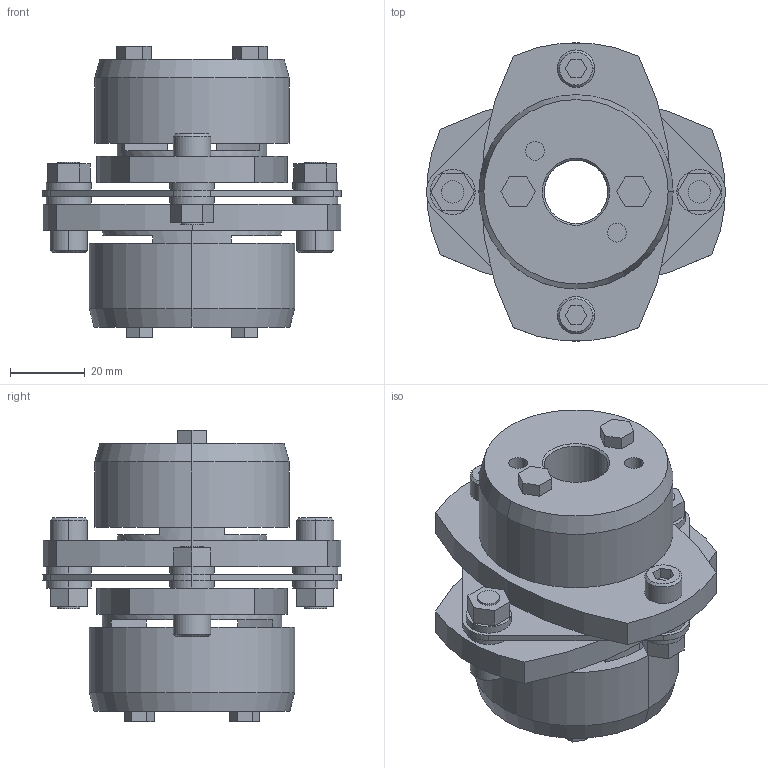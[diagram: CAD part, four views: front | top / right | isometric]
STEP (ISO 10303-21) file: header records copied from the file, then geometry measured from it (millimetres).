
FILE_DESCRIPTION((''),'2;1');
FILE_NAME('LCS-80T7-17×28.stp','2011-09-12T15:03:00',(''),(''),'AutoCAD STEP 2000i','AutoCAD 2000i',', , ');
FILE_SCHEMA(('CONFIG_CONTROL_DESIGN'));
Length unit declared in the file: millimetre
Products named in the file (9): LCS-80T7-17×28; 忣兜1; LC80T7-T028; LC80T7-T024; LC80T7-T022; LC80T7-T019; LC80T7-T017-1; LC80T7-T017; LCS80-ITA
Assembly tree (8 placements, depth 2):
  LCS-80T7-17×28
    忣兜1
    LC80T7-T028
    LC80T7-T024
    LC80T7-T022
    LC80T7-T019
    LC80T7-T017-1
    LC80T7-T017
    LCS80-ITA
Bounding box: 80 x 79.95 x 78.05 mm (x, y, z)
Volume: 138701.6 mm3; surface area: 41383.9 mm2
Topology: 1 solids, 1 shells, 232 faces, 568 edges, 372 vertices
Faces by surface type: plane 132, cylinder 80, cone 20
Entity records: 7091 total; most frequent: DIRECTION 1246, CARTESIAN_POINT 1181, ORIENTED_EDGE 1136, EDGE_CURVE 568, AXIS2_PLACEMENT_3D 437, VERTEX_POINT 372, VECTOR 372, LINE 372
